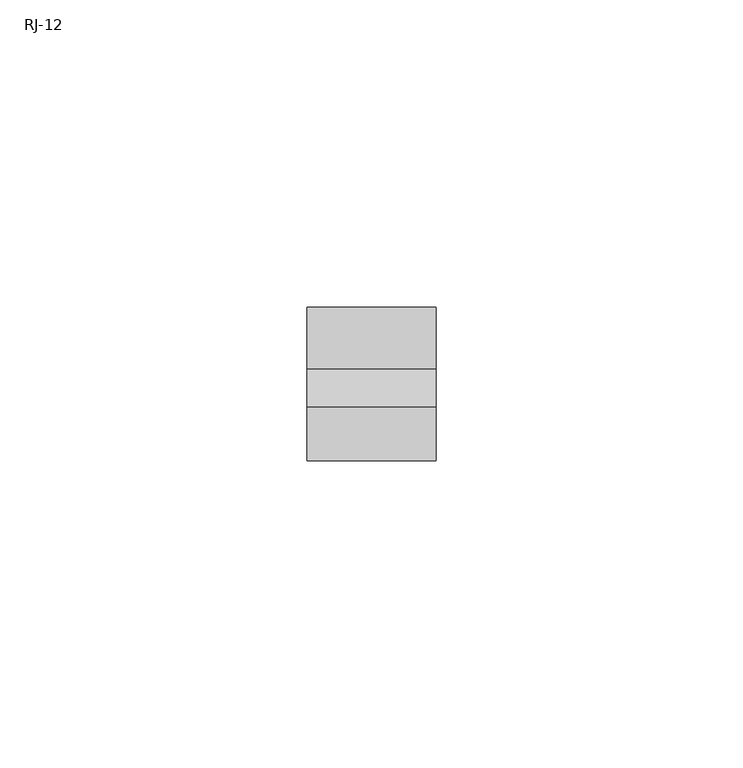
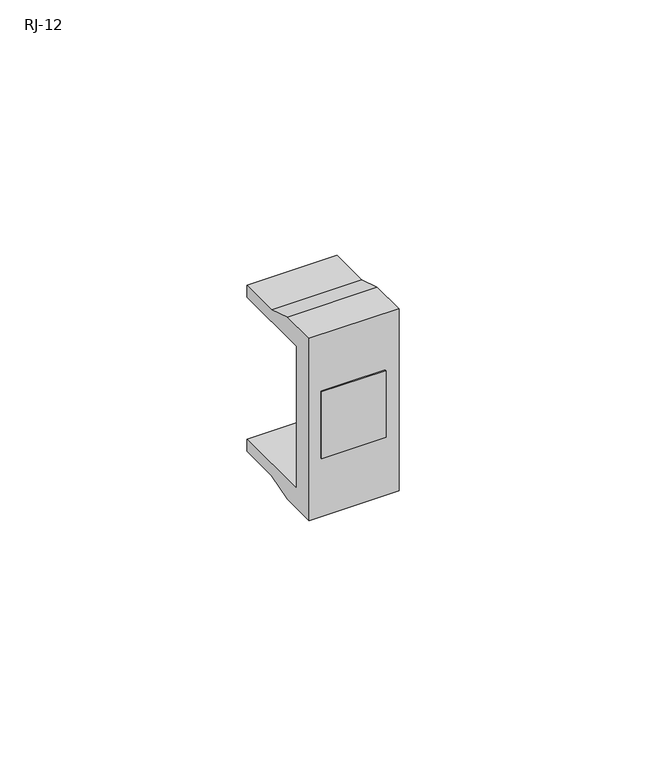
"""IFC4 building model written with IfcOpenShell, lengths in millimetres: proxy geometry, КНС_РозеткиТелефонные_DKC : RJ-12."""

from ifc_helpers import new_model, si_unit, frame, origin, place, context, project, spatial, polyline, outline, extrude, faceted_brep, source, transform, mapped, element, save


def rj_12_3b4863d1(model_context):
    return source(origin(), model_context, "Body", "SolidModel", [
        extrude(outline(polyline([(7.5, -25.0), (-7.5, -25.0), (-7.5, -20.0), (7.5, -20.0), (7.5, -25.0)])), frame((0.0, 0.0, -8.25), z_axis=(0.0, 0.0, 1.0), x_axis=(1.0, 0.0, 0.0)), (0.0, 0.0, 1.0), 16.5),
        faceted_brep([(10.5, -25.0, 22.5), (-10.5, -25.0, 22.5), (-10.5, -25.0, -22.5), (10.5, -25.0, -22.5), (7.5, -25.0, 8.25), (7.5, -25.0, -8.25), (-7.5, -25.0, -8.25), (-7.5, -25.0, 8.25), (10.5, 0.0, 20.5), (10.5, 0.0, 17.5), (-10.5, 0.0, 17.5), (-10.5, 0.0, 20.5), (10.5, 0.0, -17.5), (10.5, 0.0, -20.5), (-10.5, 0.0, -20.5), (-10.5, 0.0, -17.5), (10.5, -16.2913439, 22.5), (-10.5, -16.2913439, 22.5), (-10.5, -10.0, 20.5), (-10.5, -20.0, 17.5), (-10.5, -20.0, -17.5), (-10.5, -10.0, -20.5), (-10.5, -16.2913439, -22.5), (10.5, -16.2913439, -22.5), (10.5, -10.0, -20.5), (10.5, -20.0, -17.5), (10.5, -20.0, 17.5), (10.5, -10.0, 20.5), (7.5, -20.0, 8.25), (7.5, -20.0, -8.25), (-7.5, -20.0, -8.25), (-7.5, -20.0, 8.25)], [[[0, 1, 2, 3], [4, 5, 6, 7]], [[8, 9, 10, 11]], [[12, 13, 14, 15]], [[1, 0, 16, 17]], [[2, 1, 17, 18, 11, 10, 19, 20, 15, 14, 21, 22]], [[3, 2, 22, 23]], [[0, 3, 23, 24, 13, 12, 25, 26, 9, 8, 27, 16]], [[5, 4, 28, 29]], [[6, 5, 29, 30]], [[7, 6, 30, 31]], [[4, 7, 31, 28]], [[20, 25, 12, 15]], [[26, 19, 10, 9]], [[25, 20, 19, 26], [29, 28, 31, 30]], [[18, 27, 8, 11]], [[27, 18, 17, 16]], [[24, 21, 14, 13]], [[21, 24, 23, 22]]]),
    ])


if __name__ == "__main__":
    model = new_model("IFC4")
    model_context = context("Model", 3, world=origin())
    ifc_project = project(units=[si_unit("LENGTHUNIT", "METRE", prefix="MILLI")], contexts=[model_context])
    site = spatial("IfcSite", under=ifc_project)
    building = spatial("IfcBuilding", under=site)
    placement = place(None, origin())
    rj_12_shape = rj_12_3b4863d1(model_context)
    element("IfcBuildingElementProxy", 1, Name="КНС_РозеткиТелефонные_DKC : RJ-12", ObjectType="КНС_РозеткиТелефонные_DKC : RJ-12", at=placement, inside=building, context=model_context, shape_type="MappedRepresentation", body=[
        mapped(rj_12_shape, transform((0.0, 0.0, 0.0), x_axis=(1.0, 0.0, 0.0), y_axis=(0.0, 1.0, 0.0), z_axis=(0.0, 0.0, 1.0))),
    ])
    save(model, "model.ifc")
